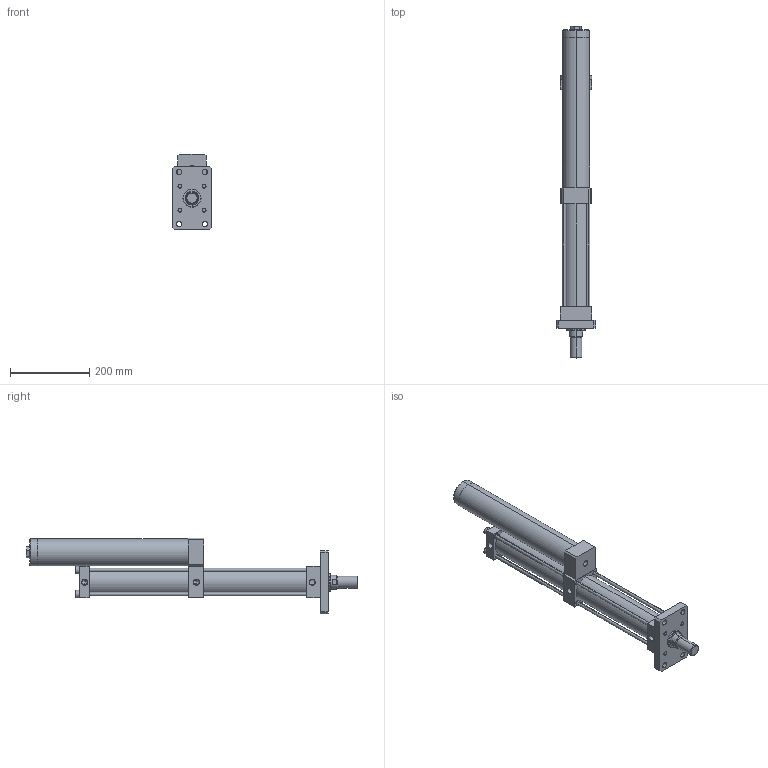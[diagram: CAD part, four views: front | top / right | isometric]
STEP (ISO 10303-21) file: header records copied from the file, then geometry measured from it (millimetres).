
FILE_DESCRIPTION (( 'STEP AP203' ), '1' );
FILE_NAME ('MPT-63-200-20-1T.STEP', '2016-03-17T09:42:16', ( 'WIN' ), ( '' ), 'SwSTEP 2.0', 'SolidWorks 2014', '' );
FILE_SCHEMA (( 'CONFIG_CONTROL_DESIGN' ));
Length unit declared in the file: millimetre
Products named in the file (1): MPT-63-200-20-1T
Bounding box: 100 x 840 x 191 mm (x, y, z)
Volume: 3045644.8 mm3; surface area: 547492.8 mm2
Topology: 15 solids, 15 shells, 252 faces, 573 edges, 360 vertices
Faces by surface type: plane 132, cylinder 84, cone 24, torus 12
Entity records: 7243 total; most frequent: DIRECTION 1306, CARTESIAN_POINT 1279, ORIENTED_EDGE 1134, EDGE_CURVE 567, AXIS2_PLACEMENT_3D 497, VERTEX_POINT 360, VECTOR 312, LINE 312
